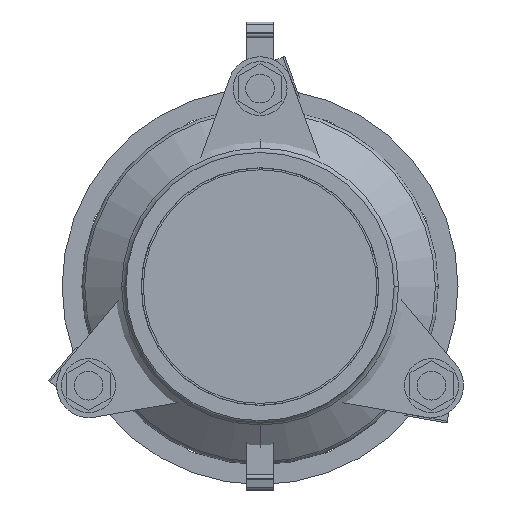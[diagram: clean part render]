
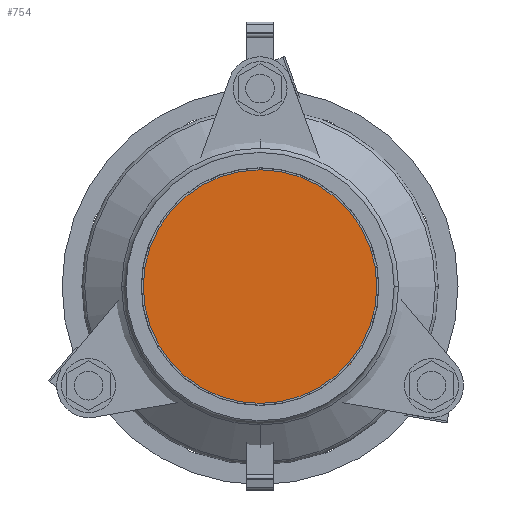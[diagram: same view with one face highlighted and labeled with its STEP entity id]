
A CAD part, left-side view. The second image highlights one B-rep face of the part: STEP entity #754.
In plain terms, the highlighted planar face has unit normal (-1, 0, 0).
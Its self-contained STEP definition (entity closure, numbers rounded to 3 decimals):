
#754=ADVANCED_FACE('',(#1596),#1597,.T.);
#1596=FACE_OUTER_BOUND('',#2816,.T.);
#1597=PLANE('',#2817);
#2816=EDGE_LOOP('',(#3940,#3941));
#2817=AXIS2_PLACEMENT_3D('',#3942,#3943,#3944);
#3940=ORIENTED_EDGE('',*,*,#6513,.T.);
#3941=ORIENTED_EDGE('',*,*,#6514,.T.);
#3942=CARTESIAN_POINT('',(-59.0,0.0,0.0));
#3943=DIRECTION('',(-1.0,0.0,0.));
#3944=DIRECTION('',(0.,0.0,1.0));
#6513=EDGE_CURVE('',#7650,#7651,#7652,.T.);
#6514=EDGE_CURVE('',#7651,#7650,#7653,.T.);
#7650=VERTEX_POINT('',#9206);
#7651=VERTEX_POINT('',#9207);
#7652=CIRCLE('',#9208,74.5);
#7653=CIRCLE('',#9209,74.5);
#9206=CARTESIAN_POINT('',(-59.0,0.0,-74.5));
#9207=CARTESIAN_POINT('',(-59.0,0.,74.5));
#9208=AXIS2_PLACEMENT_3D('',#11041,#11042,#11043);
#9209=AXIS2_PLACEMENT_3D('',#11044,#11045,#11046);
#11041=CARTESIAN_POINT('',(-59.0,0.0,0.0));
#11042=DIRECTION('',(-1.0,0.0,0.));
#11043=DIRECTION('',(0.,0.0,-1.0));
#11044=CARTESIAN_POINT('',(-59.0,0.0,0.0));
#11045=DIRECTION('',(-1.0,0.0,0.));
#11046=DIRECTION('',(0.,0.0,-1.0));
